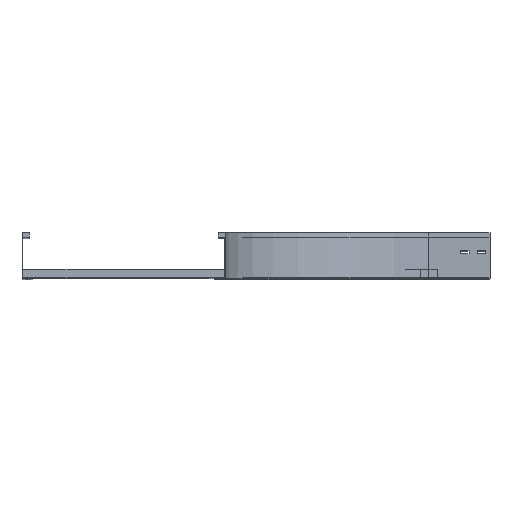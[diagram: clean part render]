
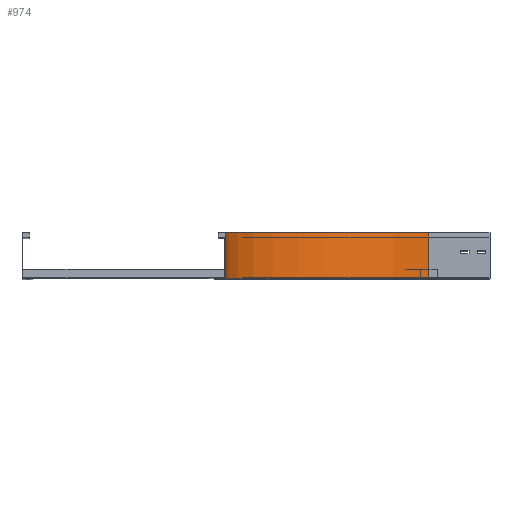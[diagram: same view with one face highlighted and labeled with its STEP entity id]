
A CAD part, top view. The second image highlights one B-rep face of the part: STEP entity #974.
In plain terms, the highlighted cylindrical face has radius 500 mm (diameter 1000 mm), a partial arc.
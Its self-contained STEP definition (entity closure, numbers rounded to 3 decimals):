
#23 = CARTESIAN_POINT ( 'NONE',  ( 0., 112.5, -150. ) ) ;
#38 = ORIENTED_EDGE ( 'NONE', *, *, #2102, .F. ) ;
#117 = LINE ( 'NONE', #1131, #2002 ) ;
#193 = EDGE_CURVE ( 'NONE', #2759, #2657, #1167, .T. ) ;
#326 = DIRECTION ( 'NONE',  ( 0., -1., 0. ) ) ;
#438 = DIRECTION ( 'NONE',  ( 0., -1., 0. ) ) ;
#647 = CARTESIAN_POINT ( 'NONE',  ( 500., 112.5, -150. ) ) ;
#753 = LINE ( 'NONE', #1070, #3106 ) ;
#769 = CARTESIAN_POINT ( 'NONE',  ( 500., 0., -650. ) ) ;
#910 = EDGE_CURVE ( 'NONE', #3736, #1186, #3661, .T. ) ;
#962 = AXIS2_PLACEMENT_3D ( 'NONE', #2346, #4021, #1705 ) ;
#974 = ADVANCED_FACE ( 'NONE', ( #2766 ), #2053, .F. ) ;
#985 = ORIENTED_EDGE ( 'NONE', *, *, #910, .F. ) ;
#1070 = CARTESIAN_POINT ( 'NONE',  ( 0., 0., -150. ) ) ;
#1131 = CARTESIAN_POINT ( 'NONE',  ( 500., 0., -650. ) ) ;
#1141 = DIRECTION ( 'NONE',  ( 0., 0., -1. ) ) ;
#1167 = CIRCLE ( 'NONE', #962, 500. ) ;
#1186 = VERTEX_POINT ( 'NONE', #3602 ) ;
#1425 = DIRECTION ( 'NONE',  ( -1., 0., 0. ) ) ;
#1476 = ORIENTED_EDGE ( 'NONE', *, *, #193, .T. ) ;
#1705 = DIRECTION ( 'NONE',  ( -1., 0., 0. ) ) ;
#1817 = EDGE_LOOP ( 'NONE', ( #985, #38, #1476, #2138 ) ) ;
#2002 = VECTOR ( 'NONE', #4115, 1000. ) ;
#2053 = CYLINDRICAL_SURFACE ( 'NONE', #3379, 500. ) ;
#2102 = EDGE_CURVE ( 'NONE', #2759, #3736, #753, .T. ) ;
#2138 = ORIENTED_EDGE ( 'NONE', *, *, #2686, .T. ) ;
#2339 = AXIS2_PLACEMENT_3D ( 'NONE', #647, #326, #1425 ) ;
#2346 = CARTESIAN_POINT ( 'NONE',  ( 500., 0., -150. ) ) ;
#2657 = VERTEX_POINT ( 'NONE', #769 ) ;
#2686 = EDGE_CURVE ( 'NONE', #2657, #1186, #117, .T. ) ;
#2759 = VERTEX_POINT ( 'NONE', #3597 ) ;
#2766 = FACE_OUTER_BOUND ( 'NONE', #1817, .T. ) ;
#3106 = VECTOR ( 'NONE', #4034, 1000. ) ;
#3379 = AXIS2_PLACEMENT_3D ( 'NONE', #3386, #438, #1141 ) ;
#3386 = CARTESIAN_POINT ( 'NONE',  ( 500., 0., -150. ) ) ;
#3597 = CARTESIAN_POINT ( 'NONE',  ( 0., 0., -150. ) ) ;
#3602 = CARTESIAN_POINT ( 'NONE',  ( 500., 112.5, -650. ) ) ;
#3661 = CIRCLE ( 'NONE', #2339, 500. ) ;
#3736 = VERTEX_POINT ( 'NONE', #23 ) ;
#4021 = DIRECTION ( 'NONE',  ( 0., -1., 0. ) ) ;
#4034 = DIRECTION ( 'NONE',  ( 0., 1., 0. ) ) ;
#4115 = DIRECTION ( 'NONE',  ( 0., 1., 0. ) ) ;
